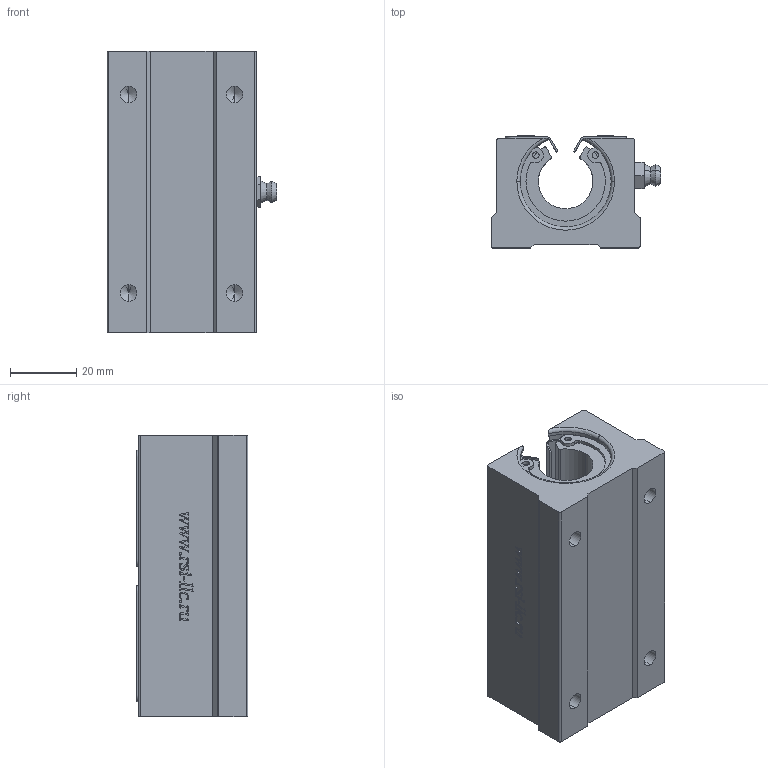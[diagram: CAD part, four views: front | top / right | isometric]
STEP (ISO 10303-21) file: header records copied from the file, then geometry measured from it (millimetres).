
FILE_DESCRIPTION (( 'STEP AP214' ), '1' );
FILE_NAME ('SBR16LUU Êàðåòêà óäëèíåííàÿ.STEP', '2020-10-05T09:32:53', ( '' ), ( '' ), 'SwSTEP 2.0', 'SolidWorks 2018', '' );
FILE_SCHEMA (( 'AUTOMOTIVE_DESIGN' ));
Length unit declared in the file: millimetre
Products named in the file (8): SBR16LUU-04_5å4,5; SBR16LUU-03; SBR16LUU-02; SBR16LUU-01; SBR16LUU Êàðåòêà óäëèíåííàÿ; SBR16LUU-07_1; SBR16LUU-06; SBR16LUU-05
Assembly tree (22 placements, depth 2):
  SBR16LUU Êàðåòêà óäëèíåííàÿ
    SBR16LUU-01
    SBR16LUU-02  x2
    SBR16LUU-03  x2
    SBR16LUU-04_5å4,5
    SBR16LUU-05  x4
    SBR16LUU-06  x4
    SBR16LUU-07_1  x8
Bounding box: 51.25 x 33.75 x 85 mm (x, y, z)
Volume: 89776.9 mm3; surface area: 48588 mm2
Topology: 22 solids, 22 shells, 757 faces, 1983 edges, 1290 vertices
Faces by surface type: plane 382, cylinder 203, bspline 108, cone 58, torus 6
Entity records: 22914 total; most frequent: CARTESIAN_POINT 8264, ORIENTED_EDGE 2578, DIRECTION 2029, EDGE_CURVE 1289, VERTEX_POINT 850, VECTOR 803, LINE 803, AXIS2_PLACEMENT_3D 613
